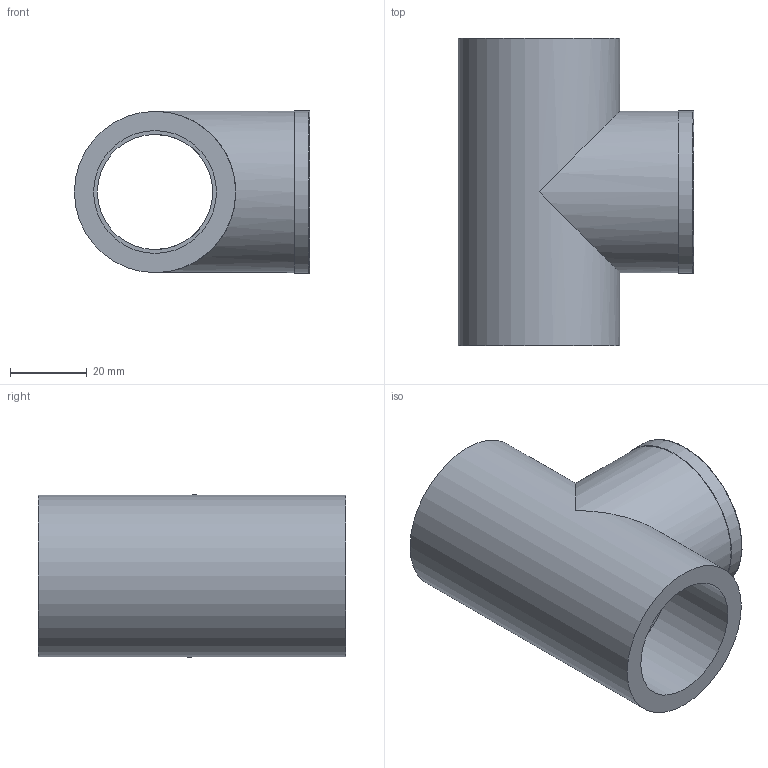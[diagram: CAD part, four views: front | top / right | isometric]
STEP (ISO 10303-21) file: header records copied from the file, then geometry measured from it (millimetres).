
FILE_DESCRIPTION(/* description */ (''),/* implementation_level */ '2;1');
FILE_NAME(/* name */ 'C:\Users\POLYPIPE\Desktop\DATASET INVENTOR\LIBRERIA EFFAST\RACCORDI 3DxWEB\RGR\3D_RGRTIR\3D_RGRTIR032D.stp',/* time_stamp */ '2018-01-19T17:56:09+01:00',/* author */ ('POLYPIPE'),/* organization */ (''),/* preprocessor_version */ 'ST-DEVELOPER v16.1',/* originating_system */ 'Autodesk Inventor 2016',/* authorisation */ '');
FILE_SCHEMA (('CONFIG_CONTROL_DESIGN'));
Length unit declared in the file: centimetre
Products named in the file (1): 3D_RGRTIR032D
Bounding box: 61.25 x 80 x 42.27 mm (x, y, z)
Volume: 60029.3 mm3; surface area: 25525.2 mm2
Topology: 1 solids, 1 shells, 24 faces, 48 edges, 32 vertices
Faces by surface type: cylinder 9, plane 9, bspline 5, torus 1
Full cylindrical faces by diameter (mm): 30 x2, 30.291 x1, 32 x2, 37 x1, 42 x2, 42.3 x1
Entity records: 3631 total; most frequent: CARTESIAN_POINT 3118, DIRECTION 89, ORIENTED_EDGE 74, EDGE_LOOP 43, AXIS2_PLACEMENT_3D 43, EDGE_CURVE 37, VERTEX_POINT 30, STYLED_ITEM 25
